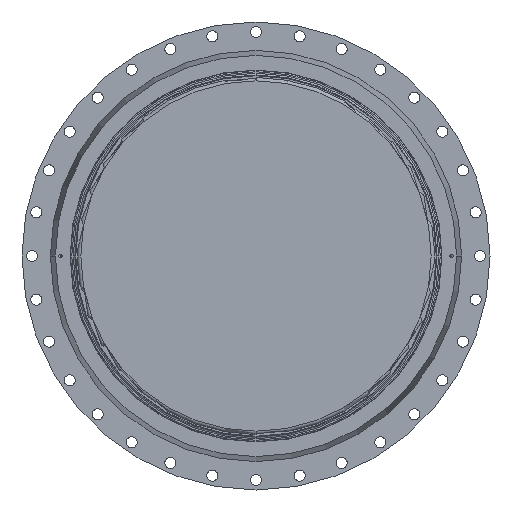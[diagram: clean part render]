
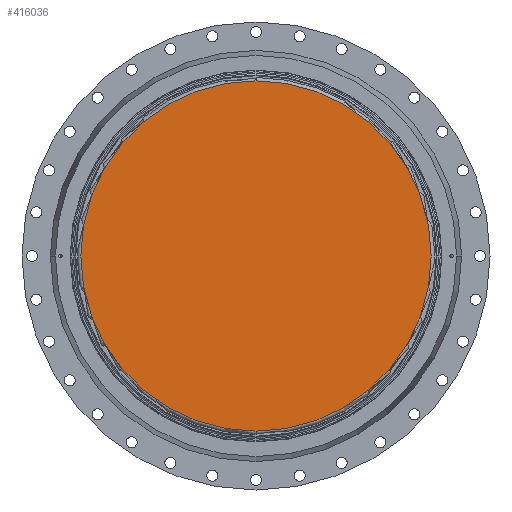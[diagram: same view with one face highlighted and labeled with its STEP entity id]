
A CAD part, front view. The second image highlights one B-rep face of the part: STEP entity #416036.
In plain terms, the highlighted planar face has unit normal (0, -1, 0).
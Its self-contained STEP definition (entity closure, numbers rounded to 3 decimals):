
#8556 = EDGE_LOOP ( 'NONE', ( #478693, #468774 ) ) ;
#19932 = AXIS2_PLACEMENT_3D ( 'NONE', #108758, #495082, #164285 ) ;
#67497 = CARTESIAN_POINT ( 'NONE',  ( 0., 0., -524. ) ) ;
#108758 = CARTESIAN_POINT ( 'NONE',  ( 0., 0., 0. ) ) ;
#122954 = CIRCLE ( 'NONE', #193321, 524. ) ;
#132512 = AXIS2_PLACEMENT_3D ( 'NONE', #656845, #325956, #712401 ) ;
#147945 = DIRECTION ( 'NONE',  ( 0., -1., 0. ) ) ;
#164285 = DIRECTION ( 'NONE',  ( 0., 0., 1. ) ) ;
#193321 = AXIS2_PLACEMENT_3D ( 'NONE', #478758, #147945, #534294 ) ;
#197941 = EDGE_CURVE ( 'NONE', #576314, #649465, #373829, .T. ) ;
#323570 = PLANE ( 'NONE',  #132512 ) ;
#325956 = DIRECTION ( 'NONE',  ( 0., 1., 0. ) ) ;
#330126 = CARTESIAN_POINT ( 'NONE',  ( 0., 0., 524. ) ) ;
#373829 = CIRCLE ( 'NONE', #19932, 524. ) ;
#416036 = ADVANCED_FACE ( 'NONE', ( #527387 ), #323570, .F. ) ;
#468774 = ORIENTED_EDGE ( 'NONE', *, *, #659547, .T. ) ;
#478693 = ORIENTED_EDGE ( 'NONE', *, *, #197941, .T. ) ;
#478758 = CARTESIAN_POINT ( 'NONE',  ( 0., 0., 0. ) ) ;
#495082 = DIRECTION ( 'NONE',  ( 0., -1., 0. ) ) ;
#527387 = FACE_OUTER_BOUND ( 'NONE', #8556, .T. ) ;
#534294 = DIRECTION ( 'NONE',  ( 0., 0., 1. ) ) ;
#576314 = VERTEX_POINT ( 'NONE', #330126 ) ;
#649465 = VERTEX_POINT ( 'NONE', #67497 ) ;
#656845 = CARTESIAN_POINT ( 'NONE',  ( -524., 0., 500000. ) ) ;
#659547 = EDGE_CURVE ( 'NONE', #649465, #576314, #122954, .T. ) ;
#712401 = DIRECTION ( 'NONE',  ( -1., 0., 0. ) ) ;
